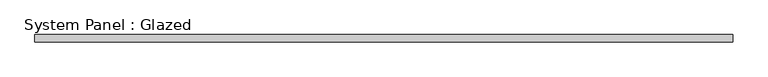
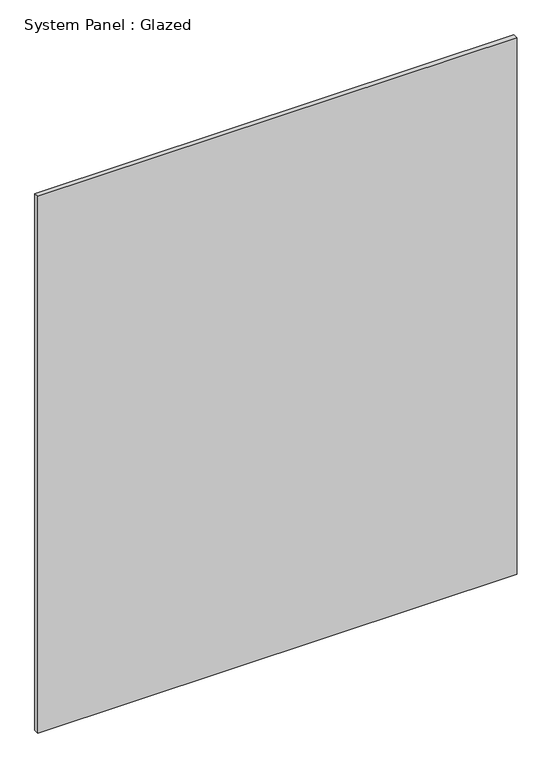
"""IFC4 building model written with IfcOpenShell, lengths in millimetres: plate geometry, System Panel : Glazed."""

from ifc_helpers import new_model, si_unit, origin, origin_with_axes, place, context, project, spatial, polyline, outline, extrude, source, transform, mapped, element, save


def system_panel_glazed_54eba105(model_context):
    return source(origin(), model_context, "Body", "SweptSolid", [
        extrude(outline(polyline([(1247.775, -44.45), (-1247.775, -44.45), (-1247.775, -19.05), (1247.775, -19.05), (1247.775, -44.45)])), origin_with_axes(), (0.0, 0.0, 1.0), 2952.75),
    ])


if __name__ == "__main__":
    model = new_model("IFC4")
    model_context = context("Model", 3, world=origin())
    ifc_project = project(units=[si_unit("LENGTHUNIT", "METRE", prefix="MILLI")], contexts=[model_context])
    site = spatial("IfcSite", under=ifc_project)
    building = spatial("IfcBuilding", under=site)
    placement = place(None, origin())
    system_panel_glazed_shape = system_panel_glazed_54eba105(model_context)
    element("IfcPlate", 1, ObjectType="System Panel : Glazed", at=placement, inside=building, context=model_context, shape_type="MappedRepresentation", body=[
        mapped(system_panel_glazed_shape, transform((0.0, 0.0, 0.0), x_axis=(1.0, 0.0, 0.0), y_axis=(0.0, 1.0, 0.0), z_axis=(0.0, 0.0, 1.0))),
    ])
    save(model, "model.ifc")
